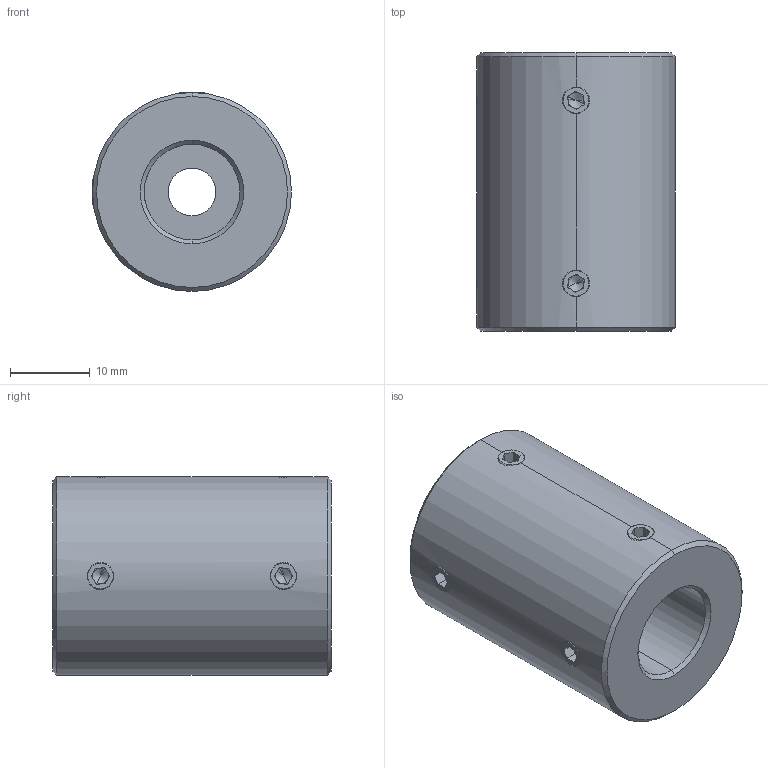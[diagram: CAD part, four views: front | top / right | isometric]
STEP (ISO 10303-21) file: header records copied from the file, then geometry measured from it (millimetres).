
FILE_DESCRIPTION (( 'STEP AP214' ), '1' );
FILE_NAME ('LL-D-D25L35-6-12½¨Ä£.STEP', '2022-07-23T00:37:41', ( '' ), ( '' ), 'SwSTEP 2.0', 'SolidWorks 2022', '' );
FILE_SCHEMA (( 'AUTOMOTIVE_DESIGN' ));
Length unit declared in the file: millimetre
Products named in the file (1): LL-D-D25L35-6-12膘耀
Bounding box: 25 x 35 x 25 mm (x, y, z)
Volume: 14514.7 mm3; surface area: 4841 mm2
Topology: 1 solids, 1 shells, 113 faces, 286 edges, 176 vertices
Faces by surface type: plane 59, cone 32, cylinder 22
Entity records: 3716 total; most frequent: CARTESIAN_POINT 1006, DIRECTION 558, ORIENTED_EDGE 556, EDGE_CURVE 278, AXIS2_PLACEMENT_3D 206, VERTEX_POINT 176, VECTOR 146, LINE 146
